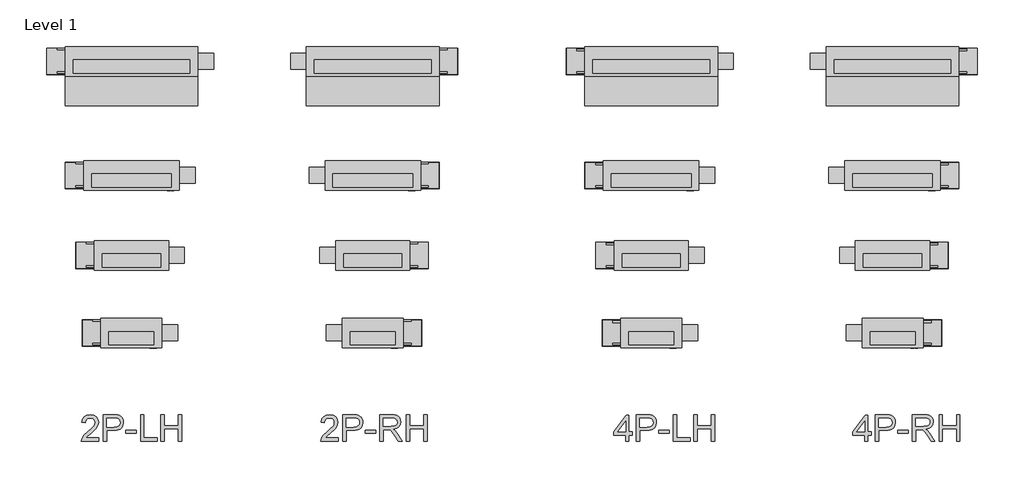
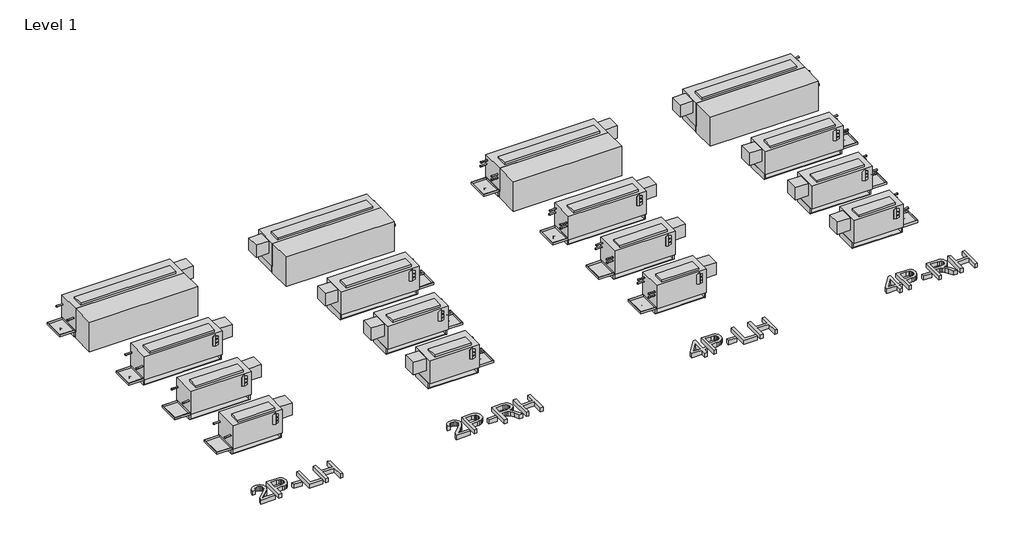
# One storey: 20 proxies.
"""IFC4 building model written with IfcOpenShell, lengths in millimetres."""

from ifc_helpers import new_model, si_unit, origin, origin_with_axes, place, context, project, spatial, polyline, outline, extrude, transform, mapped, element, save
from components import mechanical_equipment_693dfed8, mechanical_equipment_6f05d1df, mechanical_equipment_a121efba, mechanical_equipment_d1532af1, mechanical_equipment_99cd2a7c, mechanical_equipment_ad61797d, mechanical_equipment_23ea3b5d, mechanical_equipment_a0a91249, mechanical_equipment_e07a9757, mechanical_equipment_255caaae, mechanical_equipment_c72fa6f0, mechanical_equipment_6a35b7af, mechanical_equipment_14cdb50c, mechanical_equipment_78d11083, mechanical_equipment_6b94b423, mechanical_equipment_046a6d8f

model = new_model("IFC4")

# Units and contexts
model_context = context("Model", 3, world=origin())
ifc_project = project(units=[si_unit("LENGTHUNIT", "METRE", prefix="MILLI")], contexts=[model_context])

# Site, building, storey
site = spatial("IfcSite", under=ifc_project)
building = spatial("IfcBuilding", under=site)
storey = spatial("IfcBuildingStorey", under=building, Name="Level 1", Elevation=0.0)

# Proxies
placement = place(None, origin())
mechanical_equipment_shape = mechanical_equipment_693dfed8(model_context)
element("IfcBuildingElementProxy", 1, Name="Concealed_Vertical_Low_Boy_Fan_Coil_Unit Fan_-_LHA_-_IEC_-_4-Pipe_RH_2022 : Size 06 - 277v/60Hz/1Ph - 2/1 Coil", ObjectType="Concealed_Vertical_Low_Boy_Fan_Coil_Unit Fan_-_LHA_-_IEC_-_4-Pipe_RH_2022 : Size 06 - 277v/60Hz/1Ph - 2/1 Coil", at=placement, inside=storey, context=model_context, shape_type="MappedRepresentation", body=[
    mapped(mechanical_equipment_shape, transform((-18070.4083071, 5390.1646796, 0.0), x_axis=(1.0, 0.0, 0.0), y_axis=(0.0, 1.0, 0.0), z_axis=(0.0, 0.0, 1.0))),
])
mechanical_equipment_2_shape = mechanical_equipment_6f05d1df(model_context)
element("IfcBuildingElementProxy", 2, Name="Concealed_Vertical_Low_Boy_Fan_Coil_Unit Fan_-_LHA_-_IEC_-_4-Pipe_RH_2022 : Size 04 - 277v/60Hz/1Ph - 2/1 Coil", ObjectType="Concealed_Vertical_Low_Boy_Fan_Coil_Unit Fan_-_LHA_-_IEC_-_4-Pipe_RH_2022 : Size 04 - 277v/60Hz/1Ph - 2/1 Coil", at=placement, inside=storey, context=model_context, shape_type="MappedRepresentation", body=[
    mapped(mechanical_equipment_2_shape, transform((-17892.6083071, 4297.1274872, 0.0), x_axis=(1.0, 0.0, 0.0), y_axis=(0.0, 1.0, 0.0), z_axis=(0.0, 0.0, 1.0))),
])
mechanical_equipment_3_shape = mechanical_equipment_a121efba(model_context)
element("IfcBuildingElementProxy", 3, Name="Concealed_Vertical_Low_Boy_Fan_Coil_Unit Fan_-_LHA_-_IEC_-_4-Pipe_RH_2022 : Size 03 - 277v/60Hz/1Ph - 2/1 Coil", ObjectType="Concealed_Vertical_Low_Boy_Fan_Coil_Unit Fan_-_LHA_-_IEC_-_4-Pipe_RH_2022 : Size 03 - 277v/60Hz/1Ph - 2/1 Coil", at=placement, inside=storey, context=model_context, shape_type="MappedRepresentation", body=[
    mapped(mechanical_equipment_3_shape, transform((-17791.0083071, 3532.169443, 0.0), x_axis=(1.0, 0.0, 0.0), y_axis=(0.0, 1.0, 0.0), z_axis=(0.0, 0.0, 1.0))),
])
mechanical_equipment_4_shape = mechanical_equipment_d1532af1(model_context)
element("IfcBuildingElementProxy", 4, Name="Concealed_Vertical_Low_Boy_Fan_Coil_Unit Fan_-_LHA_-_IEC_-_4-Pipe_RH_2022 : Size 02 - 277v/60Hz/1Ph - 2/1 Coil", ObjectType="Concealed_Vertical_Low_Boy_Fan_Coil_Unit Fan_-_LHA_-_IEC_-_4-Pipe_RH_2022 : Size 02 - 277v/60Hz/1Ph - 2/1 Coil", at=placement, inside=storey, context=model_context, shape_type="MappedRepresentation", body=[
    mapped(mechanical_equipment_4_shape, transform((-17727.5083071, 2788.0738909, 0.0), x_axis=(1.0, 0.0, 0.0), y_axis=(0.0, 1.0, 0.0), z_axis=(0.0, 0.0, 1.0))),
])
mechanical_equipment_5_shape = mechanical_equipment_99cd2a7c(model_context)
element("IfcBuildingElementProxy", 5, Name="Concealed_Vertical_Low_Boy_Fan_Coil_Unit Fan_-_LHA_-_IEC_-_2-Pipe_LH_2022 : Size 06 - 277v/60Hz/1Ph - 2/1 Coil", ObjectType="Concealed_Vertical_Low_Boy_Fan_Coil_Unit Fan_-_LHA_-_IEC_-_2-Pipe_LH_2022 : Size 06 - 277v/60Hz/1Ph - 2/1 Coil", at=placement, inside=storey, context=model_context, shape_type="MappedRepresentation", body=[
    mapped(mechanical_equipment_5_shape, transform((-25360.2083071, 5390.1646796, 0.0), x_axis=(1.0, 0.0, 0.0), y_axis=(0.0, 1.0, 0.0), z_axis=(0.0, 0.0, 1.0))),
])
mechanical_equipment_6_shape = mechanical_equipment_ad61797d(model_context)
element("IfcBuildingElementProxy", 6, Name="Concealed_Vertical_Low_Boy_Fan_Coil_Unit Fan_-_LHA_-_IEC_-_2-Pipe_RH_2022 : Size 06 - 277v/60Hz/1Ph - 2/1 Coil", ObjectType="Concealed_Vertical_Low_Boy_Fan_Coil_Unit Fan_-_LHA_-_IEC_-_2-Pipe_RH_2022 : Size 06 - 277v/60Hz/1Ph - 2/1 Coil", at=placement, inside=storey, context=model_context, shape_type="MappedRepresentation", body=[
    mapped(mechanical_equipment_6_shape, transform((-23048.8083071, 5390.1646796, 0.0), x_axis=(1.0, 0.0, 0.0), y_axis=(0.0, 1.0, 0.0), z_axis=(0.0, 0.0, 1.0))),
])
mechanical_equipment_7_shape = mechanical_equipment_23ea3b5d(model_context)
element("IfcBuildingElementProxy", 7, Name="Concealed_Vertical_Low_Boy_Fan_Coil_Unit Fan_-_LHA_-_IEC_-_4-Pipe_LH_2022 : Size 06 - 277v/60Hz/1Ph - 2/1 Coil", ObjectType="Concealed_Vertical_Low_Boy_Fan_Coil_Unit Fan_-_LHA_-_IEC_-_4-Pipe_LH_2022 : Size 06 - 277v/60Hz/1Ph - 2/1 Coil", at=placement, inside=storey, context=model_context, shape_type="MappedRepresentation", body=[
    mapped(mechanical_equipment_7_shape, transform((-20381.8083071, 5390.1646796, 0.0), x_axis=(1.0, 0.0, 0.0), y_axis=(0.0, 1.0, 0.0), z_axis=(0.0, 0.0, 1.0))),
])
mechanical_equipment_8_shape = mechanical_equipment_a0a91249(model_context)
element("IfcBuildingElementProxy", 8, Name="Concealed_Vertical_Low_Boy_Fan_Coil_Unit Fan_-_LHA_-_IEC_-_2-Pipe_RH_2022 : Size 04 - 277v/60Hz/1Ph - 2/1 Coil", ObjectType="Concealed_Vertical_Low_Boy_Fan_Coil_Unit Fan_-_LHA_-_IEC_-_2-Pipe_RH_2022 : Size 04 - 277v/60Hz/1Ph - 2/1 Coil", at=placement, inside=storey, context=model_context, shape_type="MappedRepresentation", body=[
    mapped(mechanical_equipment_8_shape, transform((-22871.0083071, 4297.1274872, 0.0), x_axis=(1.0, 0.0, 0.0), y_axis=(0.0, 1.0, 0.0), z_axis=(0.0, 0.0, 1.0))),
])
mechanical_equipment_9_shape = mechanical_equipment_e07a9757(model_context)
element("IfcBuildingElementProxy", 9, Name="Concealed_Vertical_Low_Boy_Fan_Coil_Unit Fan_-_LHA_-_IEC_-_2-Pipe_RH_2022 : Size 03 - 277v/60Hz/1Ph - 2/1 Coil", ObjectType="Concealed_Vertical_Low_Boy_Fan_Coil_Unit Fan_-_LHA_-_IEC_-_2-Pipe_RH_2022 : Size 03 - 277v/60Hz/1Ph - 2/1 Coil", at=placement, inside=storey, context=model_context, shape_type="MappedRepresentation", body=[
    mapped(mechanical_equipment_9_shape, transform((-22769.4083071, 3532.169443, 0.0), x_axis=(1.0, 0.0, 0.0), y_axis=(0.0, 1.0, 0.0), z_axis=(0.0, 0.0, 1.0))),
])
mechanical_equipment_10_shape = mechanical_equipment_255caaae(model_context)
element("IfcBuildingElementProxy", 10, Name="Concealed_Vertical_Low_Boy_Fan_Coil_Unit Fan_-_LHA_-_IEC_-_2-Pipe_RH_2022 : Size 02 - 277v/60Hz/1Ph - 2/1 Coil", ObjectType="Concealed_Vertical_Low_Boy_Fan_Coil_Unit Fan_-_LHA_-_IEC_-_2-Pipe_RH_2022 : Size 02 - 277v/60Hz/1Ph - 2/1 Coil", at=placement, inside=storey, context=model_context, shape_type="MappedRepresentation", body=[
    mapped(mechanical_equipment_10_shape, transform((-22705.9083071, 2788.0738909, 0.0), x_axis=(1.0, 0.0, 0.0), y_axis=(0.0, 1.0, 0.0), z_axis=(0.0, 0.0, 1.0))),
])
mechanical_equipment_11_shape = mechanical_equipment_c72fa6f0(model_context)
element("IfcBuildingElementProxy", 11, Name="Concealed_Vertical_Low_Boy_Fan_Coil_Unit Fan_-_LHA_-_IEC_-_2-Pipe_LH_2022 : Size 04 - 277v/60Hz/1Ph - 2/1 Coil", ObjectType="Concealed_Vertical_Low_Boy_Fan_Coil_Unit Fan_-_LHA_-_IEC_-_2-Pipe_LH_2022 : Size 04 - 277v/60Hz/1Ph - 2/1 Coil", at=placement, inside=storey, context=model_context, shape_type="MappedRepresentation", body=[
    mapped(mechanical_equipment_11_shape, transform((-25182.4083071, 4297.1274872, 0.0), x_axis=(1.0, 0.0, 0.0), y_axis=(0.0, 1.0, 0.0), z_axis=(0.0, 0.0, 1.0))),
])
mechanical_equipment_12_shape = mechanical_equipment_6a35b7af(model_context)
element("IfcBuildingElementProxy", 12, Name="Concealed_Vertical_Low_Boy_Fan_Coil_Unit Fan_-_LHA_-_IEC_-_2-Pipe_LH_2022 : Size 03 - 277v/60Hz/1Ph - 2/1 Coil", ObjectType="Concealed_Vertical_Low_Boy_Fan_Coil_Unit Fan_-_LHA_-_IEC_-_2-Pipe_LH_2022 : Size 03 - 277v/60Hz/1Ph - 2/1 Coil", at=placement, inside=storey, context=model_context, shape_type="MappedRepresentation", body=[
    mapped(mechanical_equipment_12_shape, transform((-25080.8083071, 3532.169443, 0.0), x_axis=(1.0, 0.0, 0.0), y_axis=(0.0, 1.0, 0.0), z_axis=(0.0, 0.0, 1.0))),
])
mechanical_equipment_13_shape = mechanical_equipment_14cdb50c(model_context)
element("IfcBuildingElementProxy", 13, Name="Concealed_Vertical_Low_Boy_Fan_Coil_Unit Fan_-_LHA_-_IEC_-_2-Pipe_LH_2022 : Size 02 - 277v/60Hz/1Ph - 2/1 Coil", ObjectType="Concealed_Vertical_Low_Boy_Fan_Coil_Unit Fan_-_LHA_-_IEC_-_2-Pipe_LH_2022 : Size 02 - 277v/60Hz/1Ph - 2/1 Coil", at=placement, inside=storey, context=model_context, shape_type="MappedRepresentation", body=[
    mapped(mechanical_equipment_13_shape, transform((-25017.3083071, 2788.0738909, 0.0), x_axis=(1.0, 0.0, 0.0), y_axis=(0.0, 1.0, 0.0), z_axis=(0.0, 0.0, 1.0))),
])
mechanical_equipment_14_shape = mechanical_equipment_78d11083(model_context)
element("IfcBuildingElementProxy", 14, Name="Concealed_Vertical_Low_Boy_Fan_Coil_Unit Fan_-_LHA_-_IEC_-_4-Pipe_LH_2022 : Size 04 - 277v/60Hz/1Ph - 2/1 Coil", ObjectType="Concealed_Vertical_Low_Boy_Fan_Coil_Unit Fan_-_LHA_-_IEC_-_4-Pipe_LH_2022 : Size 04 - 277v/60Hz/1Ph - 2/1 Coil", at=placement, inside=storey, context=model_context, shape_type="MappedRepresentation", body=[
    mapped(mechanical_equipment_14_shape, transform((-20204.0083071, 4297.1274872, 0.0), x_axis=(1.0, 0.0, 0.0), y_axis=(0.0, 1.0, 0.0), z_axis=(0.0, 0.0, 1.0))),
])
mechanical_equipment_15_shape = mechanical_equipment_6b94b423(model_context)
element("IfcBuildingElementProxy", 15, Name="Concealed_Vertical_Low_Boy_Fan_Coil_Unit Fan_-_LHA_-_IEC_-_4-Pipe_LH_2022 : Size 03 - 277v/60Hz/1Ph - 2/1 Coil", ObjectType="Concealed_Vertical_Low_Boy_Fan_Coil_Unit Fan_-_LHA_-_IEC_-_4-Pipe_LH_2022 : Size 03 - 277v/60Hz/1Ph - 2/1 Coil", at=placement, inside=storey, context=model_context, shape_type="MappedRepresentation", body=[
    mapped(mechanical_equipment_15_shape, transform((-20102.4083071, 3532.169443, 0.0), x_axis=(1.0, 0.0, 0.0), y_axis=(0.0, 1.0, 0.0), z_axis=(0.0, 0.0, 1.0))),
])
mechanical_equipment_16_shape = mechanical_equipment_046a6d8f(model_context)
element("IfcBuildingElementProxy", 16, Name="Concealed_Vertical_Low_Boy_Fan_Coil_Unit Fan_-_LHA_-_IEC_-_4-Pipe_LH_2022 : Size 02 - 277v/60Hz/1Ph - 2/1 Coil", ObjectType="Concealed_Vertical_Low_Boy_Fan_Coil_Unit Fan_-_LHA_-_IEC_-_4-Pipe_LH_2022 : Size 02 - 277v/60Hz/1Ph - 2/1 Coil", at=placement, inside=storey, context=model_context, shape_type="MappedRepresentation", body=[
    mapped(mechanical_equipment_16_shape, transform((-20038.9083071, 2788.0738909, 0.0), x_axis=(1.0, 0.0, 0.0), y_axis=(0.0, 1.0, 0.0), z_axis=(0.0, 0.0, 1.0))),
])
element("IfcBuildingElementProxy", 17, Name="24\" Arial", ObjectType="24\" Arial", at=placement, inside=storey, context=model_context, shape_type="SweptSolid", body=[
    extrude(outline(polyline([(-24884.0227498, 1403.185227), (-24884.0227498, 1371.2903485), (-25051.4708618, 1371.2903485), (-25048.0446542, 1393.2803722), (-25040.1799502, 1410.4659183), (-25028.6710073, 1427.1375332), (-24988.7401145, 1464.1094285), (-24954.3223013, 1494.6805449), (-24933.6716134, 1517.2467944), (-24923.3462694, 1535.5614316), (-24919.9044881, 1553.3777114), (-24923.1515985, 1569.3485111), (-24932.8929298, 1582.6250658), (-24947.8670146, 1591.5721398), (-24966.8123856, 1594.5544978), (-24986.7077504, 1591.6422213), (-25002.164619, 1582.9053918), (-25012.1395554, 1569.0292509), (-25015.5891235, 1550.6990399), (-25047.484002, 1554.6858998), (-25039.7516743, 1585.5373423), (-25023.0333383, 1608.0724444), (-24998.2011197, 1621.8551433), (-24966.127144, 1626.4493763), (-24933.8195633, 1621.3412122), (-24909.0340657, 1606.0167198), (-24893.2657236, 1583.1234232), (-24888.0096096, 1555.3088466), (-24893.6784259, 1525.0647773), (-24912.522568, 1493.7928456), (-24958.2157191, 1450.0931245), (-24994.9072883, 1419.4129923), (-25009.2973604, 1403.185227), (-24884.0227498, 1403.185227)])), origin_with_axes(), (0.0, 0.0, 1.0), 50.8),
    extrude(outline(polyline([(-24840.1672919, 1371.2903485), (-24840.1672919, 1626.4493763), (-24745.6039608, 1626.4493763), (-24707.4796139, 1624.0198836), (-24690.4809519, 1619.4801585), (-24676.4880084, 1612.0904515), (-24665.2204573, 1601.5159288), (-24656.3979726, 1587.4217565), (-24650.698009, 1570.7968625), (-24648.7980211, 1552.6301752), (-24653.9295457, 1522.5574162), (-24669.3241196, 1497.4993794), (-24681.6526271, 1487.6334587), (-24698.1120507, 1480.5863725), (-24718.7023907, 1476.3581208), (-24743.4236469, 1474.9487036), (-24808.2724135, 1474.9487036), (-24808.2724135, 1371.2903485), (-24840.1672919, 1371.2903485)]), holes=[polyline([(-24808.2724135, 1506.843582), (-24741.5548063, 1506.843582), (-24713.2730196, 1509.7714322), (-24694.5846142, 1518.5549827), (-24684.1658282, 1532.6491551), (-24680.6928996, 1551.5088708), (-24682.7408373, 1565.8366483), (-24688.8846506, 1577.9218171), (-24698.3612295, 1587.016841), (-24710.4074641, 1592.3741839), (-24742.3023426, 1594.5544978), (-24808.2724135, 1594.5544978), (-24808.2724135, 1506.843582)])]), origin_with_axes(), (0.0, 0.0, 1.0), 50.8),
    extrude(outline(polyline([(-24624.8768622, 1447.0406849), (-24624.8768622, 1478.9355634), (-24525.205367, 1478.9355634), (-24525.205367, 1447.0406849), (-24624.8768622, 1447.0406849)])), origin_with_axes(), (0.0, 0.0, 1.0), 50.8),
    extrude(outline(polyline([(-24485.3367689, 1371.2903485), (-24485.3367689, 1626.4493763), (-24453.4418905, 1626.4493763), (-24453.4418905, 1403.185227), (-24325.8623766, 1403.185227), (-24325.8623766, 1371.2903485), (-24485.3367689, 1371.2903485)])), origin_with_axes(), (0.0, 0.0, 1.0), 50.8),
    extrude(outline(polyline([(-24289.9806383, 1371.2903485), (-24289.9806383, 1626.4493763), (-24258.0857598, 1626.4493763), (-24258.0857598, 1522.7910213), (-24122.5325263, 1522.7910213), (-24122.5325263, 1626.4493763), (-24090.6376478, 1626.4493763), (-24090.6376478, 1371.2903485), (-24122.5325263, 1371.2903485), (-24122.5325263, 1490.8961428), (-24258.0857598, 1490.8961428), (-24258.0857598, 1371.2903485), (-24289.9806383, 1371.2903485)])), origin_with_axes(), (0.0, 0.0, 1.0), 50.8),
])
element("IfcBuildingElementProxy", 18, Name="24\" Arial", ObjectType="24\" Arial", at=placement, inside=storey, context=model_context, shape_type="SweptSolid", body=[
    extrude(outline(polyline([(-22592.3817205, 1403.185227), (-22592.3817205, 1371.2903485), (-22759.8298325, 1371.2903485), (-22756.4036249, 1393.2803722), (-22748.5389209, 1410.4659183), (-22737.029978, 1427.1375332), (-22697.0990852, 1464.1094285), (-22662.681272, 1494.6805449), (-22642.0305841, 1517.2467944), (-22631.7052401, 1535.5614316), (-22628.2634588, 1553.3777114), (-22631.5105692, 1569.3485111), (-22641.2519005, 1582.6250658), (-22656.2259853, 1591.5721398), (-22675.1713563, 1594.5544978), (-22695.0667211, 1591.6422213), (-22710.5235897, 1582.9053918), (-22720.4985261, 1569.0292509), (-22723.9480942, 1550.6990399), (-22755.8429727, 1554.6858998), (-22748.110645, 1585.5373423), (-22731.392309, 1608.0724444), (-22706.5600904, 1621.8551433), (-22674.4861147, 1626.4493763), (-22642.178534, 1621.3412122), (-22617.3930364, 1606.0167198), (-22601.6246944, 1583.1234232), (-22596.3685803, 1555.3088466), (-22602.0373966, 1525.0647773), (-22620.8815387, 1493.7928456), (-22666.5746898, 1450.0931245), (-22703.266259, 1419.4129923), (-22717.6563311, 1403.185227), (-22592.3817205, 1403.185227)])), origin_with_axes(), (0.0, 0.0, 1.0), 50.8),
    extrude(outline(polyline([(-22548.5262626, 1371.2903485), (-22548.5262626, 1626.4493763), (-22453.9629315, 1626.4493763), (-22415.8385846, 1624.0198836), (-22398.8399226, 1619.4801585), (-22384.8469791, 1612.0904515), (-22373.579428, 1601.5159288), (-22364.7569433, 1587.4217565), (-22359.0569797, 1570.7968625), (-22357.1569918, 1552.6301752), (-22362.2885164, 1522.5574162), (-22377.6830903, 1497.4993794), (-22390.0115978, 1487.6334587), (-22406.4710214, 1480.5863725), (-22427.0613614, 1476.3581208), (-22451.7826176, 1474.9487036), (-22516.6313842, 1474.9487036), (-22516.6313842, 1371.2903485), (-22548.5262626, 1371.2903485)]), holes=[polyline([(-22516.6313842, 1506.843582), (-22449.913777, 1506.843582), (-22421.6319903, 1509.7714322), (-22402.9435849, 1518.5549827), (-22392.5247989, 1532.6491551), (-22389.0518703, 1551.5088708), (-22391.099808, 1565.8366483), (-22397.2436213, 1577.9218171), (-22406.7202002, 1587.016841), (-22418.7664348, 1592.3741839), (-22450.6613133, 1594.5544978), (-22516.6313842, 1594.5544978), (-22516.6313842, 1506.843582)])]), origin_with_axes(), (0.0, 0.0, 1.0), 50.8),
    extrude(outline(polyline([(-22333.2358329, 1447.0406849), (-22333.2358329, 1478.9355634), (-22233.5643377, 1478.9355634), (-22233.5643377, 1447.0406849), (-22333.2358329, 1447.0406849)])), origin_with_axes(), (0.0, 0.0, 1.0), 50.8),
    extrude(outline(polyline([(-22193.6957396, 1371.2903485), (-22193.6957396, 1626.4493763), (-22083.7456215, 1626.4493763), (-22054.1945805, 1624.7284857), (-22032.6951275, 1619.5658137), (-22016.9812933, 1610.034727), (-22004.7871088, 1595.208592), (-21996.9613391, 1576.8238733), (-21994.3527492, 1556.617035), (-21998.6744429, 1531.4811298), (-22011.6395241, 1510.6435578), (-22033.6373346, 1495.3657864), (-22065.0572161, 1486.909283), (-22046.9294629, 1473.2667471), (-22021.0771688, 1440.4374484), (-21978.5298993, 1371.2903485), (-22015.5952366, 1371.2903485), (-22048.7983034, 1424.1785357), (-22072.781757, 1459.1881484), (-22089.6324691, 1475.7273871), (-22104.8012248, 1481.8011189), (-22123.3027461, 1482.9224232), (-22161.8008612, 1482.9224232), (-22161.8008612, 1371.2903485), (-22193.6957396, 1371.2903485)]), holes=[polyline([(-22161.8008612, 1514.8173017), (-22090.4111527, 1514.8173017), (-22053.9999096, 1519.3336663), (-22042.0237565, 1525.2049403), (-22033.3180743, 1533.7860331), (-22028.0152393, 1544.1658849), (-22026.2476276, 1555.433436), (-22029.6193274, 1570.9915334), (-22039.7344268, 1583.5283387), (-22057.1380043, 1591.7979581), (-22082.3751384, 1594.5544978), (-22161.8008612, 1594.5544978), (-22161.8008612, 1514.8173017)])]), origin_with_axes(), (0.0, 0.0, 1.0), 50.8),
    extrude(outline(polyline([(-21938.5367118, 1371.2903485), (-21938.5367118, 1626.4493763), (-21906.6418334, 1626.4493763), (-21906.6418334, 1522.7910213), (-21771.0885999, 1522.7910213), (-21771.0885999, 1626.4493763), (-21739.1937214, 1626.4493763), (-21739.1937214, 1371.2903485), (-21771.0885999, 1371.2903485), (-21771.0885999, 1490.8961428), (-21906.6418334, 1490.8961428), (-21906.6418334, 1371.2903485), (-21938.5367118, 1371.2903485)])), origin_with_axes(), (0.0, 0.0, 1.0), 50.8),
])
element("IfcBuildingElementProxy", 19, Name="24\" Arial", ObjectType="24\" Arial", at=placement, inside=storey, context=model_context, shape_type="SweptSolid", body=[
    extrude(outline(polyline([(-19839.8024876, 1371.2903485), (-19839.8024876, 1431.0932457), (-19955.4214221, 1431.0932457), (-19955.4214221, 1462.9881241), (-19831.828768, 1622.4625165), (-19807.9076091, 1622.4625165), (-19807.9076091, 1462.9881241), (-19776.0127306, 1462.9881241), (-19776.0127306, 1431.0932457), (-19807.9076091, 1431.0932457), (-19807.9076091, 1371.2903485), (-19839.8024876, 1371.2903485)]), holes=[polyline([(-19839.8024876, 1462.9881241), (-19839.8024876, 1561.5383151), (-19916.1757708, 1462.9881241), (-19839.8024876, 1462.9881241)])]), origin_with_axes(), (0.0, 0.0, 1.0), 50.8),
    extrude(outline(polyline([(-19736.1441326, 1371.2903485), (-19736.1441326, 1626.4493763), (-19641.5808015, 1626.4493763), (-19603.4564545, 1624.0198836), (-19586.4577925, 1619.4801585), (-19572.464849, 1612.0904515), (-19561.1972979, 1601.5159288), (-19552.3748132, 1587.4217565), (-19546.6748496, 1570.7968625), (-19544.7748617, 1552.6301752), (-19549.9063864, 1522.5574162), (-19565.3009603, 1497.4993794), (-19577.6294677, 1487.6334587), (-19594.0888913, 1480.5863725), (-19614.6792313, 1476.3581208), (-19639.4004875, 1474.9487036), (-19704.2492541, 1474.9487036), (-19704.2492541, 1371.2903485), (-19736.1441326, 1371.2903485)]), holes=[polyline([(-19704.2492541, 1506.843582), (-19637.531647, 1506.843582), (-19609.2498602, 1509.7714322), (-19590.5614548, 1518.5549827), (-19580.1426689, 1532.6491551), (-19576.6697402, 1551.5088708), (-19578.7176779, 1565.8366483), (-19584.8614912, 1577.9218171), (-19594.3380701, 1587.016841), (-19606.3843047, 1592.3741839), (-19638.2791832, 1594.5544978), (-19704.2492541, 1594.5544978), (-19704.2492541, 1506.843582)])]), origin_with_axes(), (0.0, 0.0, 1.0), 50.8),
    extrude(outline(polyline([(-19520.8537029, 1447.0406849), (-19520.8537029, 1478.9355634), (-19421.1822076, 1478.9355634), (-19421.1822076, 1447.0406849), (-19520.8537029, 1447.0406849)])), origin_with_axes(), (0.0, 0.0, 1.0), 50.8),
    extrude(outline(polyline([(-19381.3136095, 1371.2903485), (-19381.3136095, 1626.4493763), (-19349.4187311, 1626.4493763), (-19349.4187311, 1403.185227), (-19221.8392172, 1403.185227), (-19221.8392172, 1371.2903485), (-19381.3136095, 1371.2903485)])), origin_with_axes(), (0.0, 0.0, 1.0), 50.8),
    extrude(outline(polyline([(-19185.9574789, 1371.2903485), (-19185.9574789, 1626.4493763), (-19154.0626004, 1626.4493763), (-19154.0626004, 1522.7910213), (-19018.5093669, 1522.7910213), (-19018.5093669, 1626.4493763), (-18986.6144884, 1626.4493763), (-18986.6144884, 1371.2903485), (-19018.5093669, 1371.2903485), (-19018.5093669, 1490.8961428), (-19154.0626004, 1490.8961428), (-19154.0626004, 1371.2903485), (-19185.9574789, 1371.2903485)])), origin_with_axes(), (0.0, 0.0, 1.0), 50.8),
])
element("IfcBuildingElementProxy", 20, Name="24\" Arial", ObjectType="24\" Arial", at=placement, inside=storey, context=model_context, shape_type="SweptSolid", body=[
    extrude(outline(polyline([(-17551.1001288, 1371.2903485), (-17551.1001288, 1431.0932457), (-17666.7190632, 1431.0932457), (-17666.7190632, 1462.9881241), (-17543.1264092, 1622.4625165), (-17519.2052503, 1622.4625165), (-17519.2052503, 1462.9881241), (-17487.3103718, 1462.9881241), (-17487.3103718, 1431.0932457), (-17519.2052503, 1431.0932457), (-17519.2052503, 1371.2903485), (-17551.1001288, 1371.2903485)]), holes=[polyline([(-17551.1001288, 1462.9881241), (-17551.1001288, 1561.5383151), (-17627.473412, 1462.9881241), (-17551.1001288, 1462.9881241)])]), origin_with_axes(), (0.0, 0.0, 1.0), 50.8),
    extrude(outline(polyline([(-17447.4417737, 1371.2903485), (-17447.4417737, 1626.4493763), (-17352.8784426, 1626.4493763), (-17314.7540957, 1624.0198836), (-17297.7554337, 1619.4801585), (-17283.7624902, 1612.0904515), (-17272.4949391, 1601.5159288), (-17263.6724544, 1587.4217565), (-17257.9724908, 1570.7968625), (-17256.0725029, 1552.6301752), (-17261.2040275, 1522.5574162), (-17276.5986014, 1497.4993794), (-17288.9271089, 1487.6334587), (-17305.3865325, 1480.5863725), (-17325.9768725, 1476.3581208), (-17350.6981287, 1474.9487036), (-17415.5468953, 1474.9487036), (-17415.5468953, 1371.2903485), (-17447.4417737, 1371.2903485)]), holes=[polyline([(-17415.5468953, 1506.843582), (-17348.8292881, 1506.843582), (-17320.5475014, 1509.7714322), (-17301.859096, 1518.5549827), (-17291.44031, 1532.6491551), (-17287.9673814, 1551.5088708), (-17290.0153191, 1565.8366483), (-17296.1591324, 1577.9218171), (-17305.6357113, 1587.016841), (-17317.6819459, 1592.3741839), (-17349.5768244, 1594.5544978), (-17415.5468953, 1594.5544978), (-17415.5468953, 1506.843582)])]), origin_with_axes(), (0.0, 0.0, 1.0), 50.8),
    extrude(outline(polyline([(-17232.151344, 1447.0406849), (-17232.151344, 1478.9355634), (-17132.4798488, 1478.9355634), (-17132.4798488, 1447.0406849), (-17232.151344, 1447.0406849)])), origin_with_axes(), (0.0, 0.0, 1.0), 50.8),
    extrude(outline(polyline([(-17092.6112507, 1371.2903485), (-17092.6112507, 1626.4493763), (-16982.6611326, 1626.4493763), (-16953.1100916, 1624.7284857), (-16931.6106386, 1619.5658137), (-16915.8968044, 1610.034727), (-16903.7026199, 1595.208592), (-16895.8768502, 1576.8238733), (-16893.2682603, 1556.617035), (-16897.589954, 1531.4811298), (-16910.5550352, 1510.6435578), (-16932.5528457, 1495.3657864), (-16963.9727272, 1486.909283), (-16945.844974, 1473.2667471), (-16919.9926799, 1440.4374484), (-16877.4454104, 1371.2903485), (-16914.5107477, 1371.2903485), (-16947.7138145, 1424.1785357), (-16971.6972681, 1459.1881484), (-16988.5479802, 1475.7273871), (-17003.7167359, 1481.8011189), (-17022.2182572, 1482.9224232), (-17060.7163723, 1482.9224232), (-17060.7163723, 1371.2903485), (-17092.6112507, 1371.2903485)]), holes=[polyline([(-17060.7163723, 1514.8173017), (-16989.3266638, 1514.8173017), (-16952.9154207, 1519.3336663), (-16940.9392676, 1525.2049403), (-16932.2335854, 1533.7860331), (-16926.9307504, 1544.1658849), (-16925.1631387, 1555.433436), (-16928.5348385, 1570.9915334), (-16938.6499379, 1583.5283387), (-16956.0535154, 1591.7979581), (-16981.2906495, 1594.5544978), (-17060.7163723, 1594.5544978), (-17060.7163723, 1514.8173017)])]), origin_with_axes(), (0.0, 0.0, 1.0), 50.8),
    extrude(outline(polyline([(-16837.4522229, 1371.2903485), (-16837.4522229, 1626.4493763), (-16805.5573445, 1626.4493763), (-16805.5573445, 1522.7910213), (-16670.004111, 1522.7910213), (-16670.004111, 1626.4493763), (-16638.1092325, 1626.4493763), (-16638.1092325, 1371.2903485), (-16670.004111, 1371.2903485), (-16670.004111, 1490.8961428), (-16805.5573445, 1490.8961428), (-16805.5573445, 1371.2903485), (-16837.4522229, 1371.2903485)])), origin_with_axes(), (0.0, 0.0, 1.0), 50.8),
])

save(model, "model.ifc")
